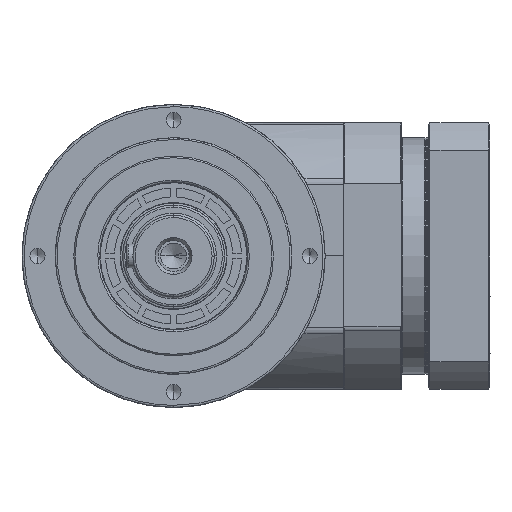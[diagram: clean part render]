
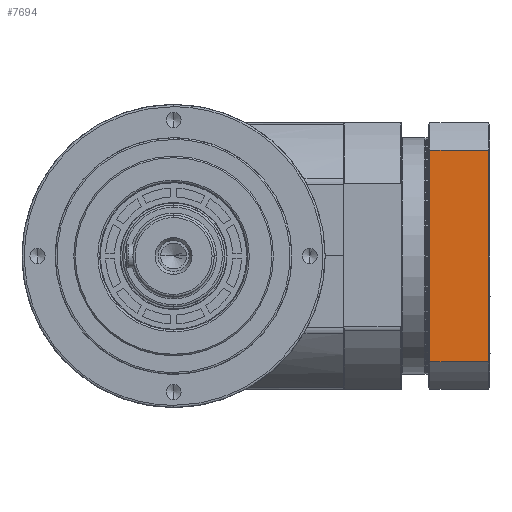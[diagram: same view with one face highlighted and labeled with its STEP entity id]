
A CAD part, left-side view. The second image highlights one B-rep face of the part: STEP entity #7694.
In plain terms, the highlighted planar face has unit normal (-1, 0, 0).
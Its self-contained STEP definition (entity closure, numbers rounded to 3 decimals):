
#1125 = PLANE ( 'NONE',  #22459 ) ;
#4998 = EDGE_CURVE ( 'NONE', #30706, #34585, #56014, .T. ) ;
#6643 = ORIENTED_EDGE ( 'NONE', *, *, #39313, .T. ) ;
#7694 = ADVANCED_FACE ( 'NONE', ( #84483 ), #1125, .T. ) ;
#10529 = CARTESIAN_POINT ( 'NONE',  ( -173.043, -191.659, 3.425 ) ) ;
#12104 = VECTOR ( 'NONE', #82387, 1000. ) ;
#13885 = ORIENTED_EDGE ( 'NONE', *, *, #52726, .F. ) ;
#15340 = CARTESIAN_POINT ( 'NONE',  ( -173.043, -211.609, 3.425 ) ) ;
#17533 = LINE ( 'NONE', #32206, #12104 ) ;
#19010 = DIRECTION ( 'NONE',  ( 0., -1., 0. ) ) ;
#20748 = VECTOR ( 'NONE', #84922, 1000. ) ;
#22459 = AXIS2_PLACEMENT_3D ( 'NONE', #15340, #57909, #78800 ) ;
#22626 = EDGE_CURVE ( 'NONE', #69803, #22877, #58786, .T. ) ;
#22877 = VERTEX_POINT ( 'NONE', #35072 ) ;
#23336 = EDGE_LOOP ( 'NONE', ( #40054, #13885, #54957, #6643 ) ) ;
#30706 = VERTEX_POINT ( 'NONE', #41231 ) ;
#32206 = CARTESIAN_POINT ( 'NONE',  ( -173.043, -171.709, 75.014 ) ) ;
#34585 = VERTEX_POINT ( 'NONE', #43713 ) ;
#35072 = CARTESIAN_POINT ( 'NONE',  ( -173.043, -211.609, 3.425 ) ) ;
#37134 = VECTOR ( 'NONE', #70106, 1000. ) ;
#39313 = EDGE_CURVE ( 'NONE', #34585, #69803, #17533, .T. ) ;
#40054 = ORIENTED_EDGE ( 'NONE', *, *, #22626, .T. ) ;
#41231 = CARTESIAN_POINT ( 'NONE',  ( -173.043, -211.609, 146.603 ) ) ;
#42726 = CARTESIAN_POINT ( 'NONE',  ( -173.043, -191.659, 146.603 ) ) ;
#43713 = CARTESIAN_POINT ( 'NONE',  ( -173.043, -171.709, 146.603 ) ) ;
#48301 = LINE ( 'NONE', #75835, #37134 ) ;
#52726 = EDGE_CURVE ( 'NONE', #30706, #22877, #48301, .T. ) ;
#54957 = ORIENTED_EDGE ( 'NONE', *, *, #4998, .T. ) ;
#56014 = LINE ( 'NONE', #42726, #20748 ) ;
#57909 = DIRECTION ( 'NONE',  ( -1., 0., 0. ) ) ;
#58786 = LINE ( 'NONE', #10529, #88772 ) ;
#69803 = VERTEX_POINT ( 'NONE', #81236 ) ;
#70106 = DIRECTION ( 'NONE',  ( 0., 0., -1. ) ) ;
#75835 = CARTESIAN_POINT ( 'NONE',  ( -173.043, -211.609, 75.014 ) ) ;
#78800 = DIRECTION ( 'NONE',  ( 0., 0., 1. ) ) ;
#81236 = CARTESIAN_POINT ( 'NONE',  ( -173.043, -171.709, 3.425 ) ) ;
#82387 = DIRECTION ( 'NONE',  ( 0., 0., -1. ) ) ;
#84483 = FACE_OUTER_BOUND ( 'NONE', #23336, .T. ) ;
#84922 = DIRECTION ( 'NONE',  ( 0., 1., 0. ) ) ;
#88772 = VECTOR ( 'NONE', #19010, 1000. ) ;
